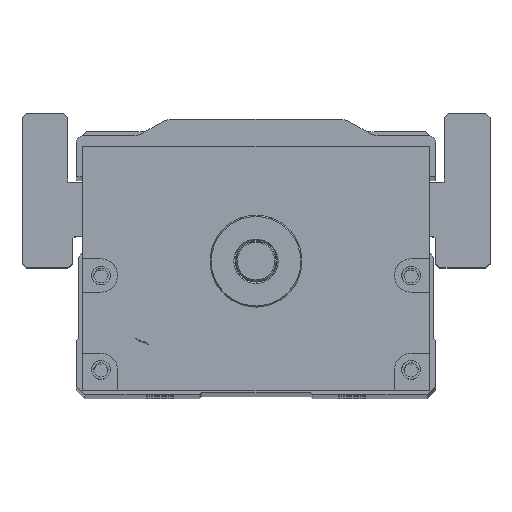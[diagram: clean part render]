
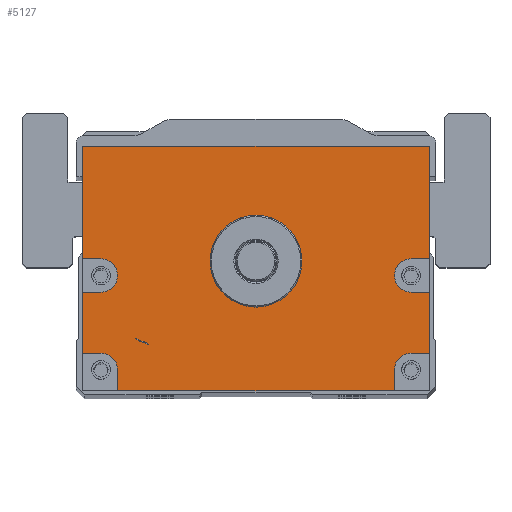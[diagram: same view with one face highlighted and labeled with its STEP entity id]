
A CAD part, top view. The second image highlights one B-rep face of the part: STEP entity #5127.
In plain terms, the highlighted planar face has unit normal (0, 0, 1).
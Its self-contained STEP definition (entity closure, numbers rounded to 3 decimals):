
#3733=FACE_BOUND('',#6831,.T.);
#3734=FACE_BOUND('',#6832,.T.);
#4247=CIRCLE('',#15558,11.);
#4258=CIRCLE('',#15572,4.);
#4259=CIRCLE('',#15573,4.);
#4260=CIRCLE('',#15574,4.);
#4261=CIRCLE('',#15575,4.);
#5127=ADVANCED_FACE('',(#3733,#3734),#5618,.T.);
#5618=PLANE('',#15576);
#6831=EDGE_LOOP('',(#9324,#9325,#9326,#9327,#9328,#9329,#9330,#9331,#9332,
#9333,#9334,#9335,#9336,#9337,#9338,#9339,#9340,#9341));
#6832=EDGE_LOOP('',(#9342));
#9324=ORIENTED_EDGE('',*,*,#12603,.F.);
#9325=ORIENTED_EDGE('',*,*,#12604,.T.);
#9326=ORIENTED_EDGE('',*,*,#12605,.F.);
#9327=ORIENTED_EDGE('',*,*,#12606,.F.);
#9328=ORIENTED_EDGE('',*,*,#12607,.F.);
#9329=ORIENTED_EDGE('',*,*,#12608,.T.);
#9330=ORIENTED_EDGE('',*,*,#12599,.T.);
#9331=ORIENTED_EDGE('',*,*,#12609,.T.);
#9332=ORIENTED_EDGE('',*,*,#12610,.F.);
#9333=ORIENTED_EDGE('',*,*,#12611,.F.);
#9334=ORIENTED_EDGE('',*,*,#12612,.F.);
#9335=ORIENTED_EDGE('',*,*,#12613,.T.);
#9336=ORIENTED_EDGE('',*,*,#12614,.F.);
#9337=ORIENTED_EDGE('',*,*,#12615,.F.);
#9338=ORIENTED_EDGE('',*,*,#12616,.F.);
#9339=ORIENTED_EDGE('',*,*,#12617,.T.);
#9340=ORIENTED_EDGE('',*,*,#12618,.F.);
#9341=ORIENTED_EDGE('',*,*,#12619,.F.);
#9342=ORIENTED_EDGE('',*,*,#12585,.T.);
#11130=VERTEX_POINT('',#22300);
#11143=VERTEX_POINT('',#22328);
#11144=VERTEX_POINT('',#22330);
#11147=VERTEX_POINT('',#22338);
#11148=VERTEX_POINT('',#22339);
#11149=VERTEX_POINT('',#22341);
#11150=VERTEX_POINT('',#22343);
#11151=VERTEX_POINT('',#22345);
#11152=VERTEX_POINT('',#22347);
#11153=VERTEX_POINT('',#22350);
#11154=VERTEX_POINT('',#22352);
#11155=VERTEX_POINT('',#22354);
#11156=VERTEX_POINT('',#22356);
#11157=VERTEX_POINT('',#22358);
#11158=VERTEX_POINT('',#22360);
#11159=VERTEX_POINT('',#22362);
#11160=VERTEX_POINT('',#22364);
#11161=VERTEX_POINT('',#22366);
#11162=VERTEX_POINT('',#22368);
#12585=EDGE_CURVE('',#11130,#11130,#4247,.T.);
#12599=EDGE_CURVE('',#11144,#11143,#13738,.T.);
#12603=EDGE_CURVE('',#11147,#11148,#13740,.T.);
#12604=EDGE_CURVE('',#11147,#11149,#13741,.T.);
#12605=EDGE_CURVE('',#11150,#11149,#13742,.T.);
#12606=EDGE_CURVE('',#11151,#11150,#4258,.T.);
#12607=EDGE_CURVE('',#11152,#11151,#13743,.T.);
#12608=EDGE_CURVE('',#11152,#11144,#13744,.T.);
#12609=EDGE_CURVE('',#11143,#11153,#13745,.T.);
#12610=EDGE_CURVE('',#11154,#11153,#13746,.T.);
#12611=EDGE_CURVE('',#11155,#11154,#4259,.T.);
#12612=EDGE_CURVE('',#11156,#11155,#13747,.T.);
#12613=EDGE_CURVE('',#11156,#11157,#13748,.T.);
#12614=EDGE_CURVE('',#11158,#11157,#13749,.T.);
#12615=EDGE_CURVE('',#11159,#11158,#4260,.T.);
#12616=EDGE_CURVE('',#11160,#11159,#13750,.T.);
#12617=EDGE_CURVE('',#11160,#11161,#13751,.T.);
#12618=EDGE_CURVE('',#11162,#11161,#13752,.T.);
#12619=EDGE_CURVE('',#11148,#11162,#4261,.T.);
#13738=LINE('',#22329,#14580);
#13740=LINE('',#22337,#14582);
#13741=LINE('',#22340,#14583);
#13742=LINE('',#22342,#14584);
#13743=LINE('',#22346,#14585);
#13744=LINE('',#22348,#14586);
#13745=LINE('',#22349,#14587);
#13746=LINE('',#22351,#14588);
#13747=LINE('',#22355,#14589);
#13748=LINE('',#22357,#14590);
#13749=LINE('',#22359,#14591);
#13750=LINE('',#22363,#14592);
#13751=LINE('',#22365,#14593);
#13752=LINE('',#22367,#14594);
#14580=VECTOR('',#18100,1.);
#14582=VECTOR('',#18108,1.);
#14583=VECTOR('',#18109,1.);
#14584=VECTOR('',#18110,1.);
#14585=VECTOR('',#18113,1.);
#14586=VECTOR('',#18114,1.);
#14587=VECTOR('',#18115,1.);
#14588=VECTOR('',#18116,1.);
#14589=VECTOR('',#18119,1.);
#14590=VECTOR('',#18120,1.);
#14591=VECTOR('',#18121,1.);
#14592=VECTOR('',#18124,1.);
#14593=VECTOR('',#18125,1.);
#14594=VECTOR('',#18126,1.);
#15558=AXIS2_PLACEMENT_3D('',#22299,#18073,#18074);
#15572=AXIS2_PLACEMENT_3D('',#22344,#18111,#18112);
#15573=AXIS2_PLACEMENT_3D('',#22353,#18117,#18118);
#15574=AXIS2_PLACEMENT_3D('',#22361,#18122,#18123);
#15575=AXIS2_PLACEMENT_3D('',#22369,#18127,#18128);
#15576=AXIS2_PLACEMENT_3D('',#22370,#18129,#18130);
#18073=DIRECTION('',(0.,0.,-1.));
#18074=DIRECTION('',(1.,0.,0.));
#18100=DIRECTION('',(-1.,0.,0.));
#18108=DIRECTION('',(-1.,0.,0.));
#18109=DIRECTION('',(0.,1.,0.));
#18110=DIRECTION('',(1.,0.,0.));
#18111=DIRECTION('',(0.,0.,1.));
#18112=DIRECTION('',(1.,0.,0.));
#18113=DIRECTION('',(-1.,0.,0.));
#18114=DIRECTION('',(0.,1.,0.));
#18115=DIRECTION('',(0.,-1.,0.));
#18116=DIRECTION('',(-1.,0.,0.));
#18117=DIRECTION('',(0.,0.,1.));
#18118=DIRECTION('',(1.,0.,0.));
#18119=DIRECTION('',(1.,0.,0.));
#18120=DIRECTION('',(0.,-1.,0.));
#18121=DIRECTION('',(-1.,0.,0.));
#18122=DIRECTION('',(0.,0.,1.));
#18123=DIRECTION('',(1.,0.,0.));
#18124=DIRECTION('',(0.,1.,0.));
#18125=DIRECTION('',(1.,0.,0.));
#18126=DIRECTION('',(0.,-1.,0.));
#18127=DIRECTION('',(0.,0.,1.));
#18128=DIRECTION('',(1.,0.,0.));
#18129=DIRECTION('',(0.,0.,1.));
#18130=DIRECTION('',(1.,0.,0.));
#22299=CARTESIAN_POINT('',(450.,0.,382.5));
#22300=CARTESIAN_POINT('',(461.,0.,382.5));
#22328=CARTESIAN_POINT('',(408.5,27.5,382.5));
#22329=CARTESIAN_POINT('',(491.5,27.5,382.5));
#22330=CARTESIAN_POINT('',(491.5,27.5,382.5));
#22337=CARTESIAN_POINT('',(491.5,-22.,382.5));
#22338=CARTESIAN_POINT('',(491.5,-22.,382.5));
#22339=CARTESIAN_POINT('',(487.115,-22.,382.5));
#22340=CARTESIAN_POINT('',(491.5,-31.,382.5));
#22341=CARTESIAN_POINT('',(491.5,-7.431,382.5));
#22342=CARTESIAN_POINT('',(491.5,-7.431,382.5));
#22343=CARTESIAN_POINT('',(487.115,-7.431,382.5));
#22344=CARTESIAN_POINT('',(487.115,-3.431,382.5));
#22345=CARTESIAN_POINT('',(487.115,0.569,382.5));
#22346=CARTESIAN_POINT('',(491.5,0.569,382.5));
#22347=CARTESIAN_POINT('',(491.5,0.569,382.5));
#22348=CARTESIAN_POINT('',(491.5,-31.,382.5));
#22349=CARTESIAN_POINT('',(408.5,27.5,382.5));
#22350=CARTESIAN_POINT('',(408.5,0.569,382.5));
#22351=CARTESIAN_POINT('',(491.5,0.569,382.5));
#22352=CARTESIAN_POINT('',(412.885,0.569,382.5));
#22353=CARTESIAN_POINT('',(412.885,-3.431,382.5));
#22354=CARTESIAN_POINT('',(412.885,-7.431,382.5));
#22355=CARTESIAN_POINT('',(491.5,-7.431,382.5));
#22356=CARTESIAN_POINT('',(408.5,-7.431,382.5));
#22357=CARTESIAN_POINT('',(408.5,27.5,382.5));
#22358=CARTESIAN_POINT('',(408.5,-22.,382.5));
#22359=CARTESIAN_POINT('',(491.5,-22.,382.5));
#22360=CARTESIAN_POINT('',(412.885,-22.,382.5));
#22361=CARTESIAN_POINT('',(412.885,-26.,382.5));
#22362=CARTESIAN_POINT('',(416.885,-26.,382.5));
#22363=CARTESIAN_POINT('',(416.885,-31.,382.5));
#22364=CARTESIAN_POINT('',(416.885,-31.,382.5));
#22365=CARTESIAN_POINT('',(408.5,-31.,382.5));
#22366=CARTESIAN_POINT('',(483.115,-31.,382.5));
#22367=CARTESIAN_POINT('',(483.115,-31.,382.5));
#22368=CARTESIAN_POINT('',(483.115,-26.,382.5));
#22369=CARTESIAN_POINT('',(487.115,-26.,382.5));
#22370=CARTESIAN_POINT('',(491.5,-31.,382.5));
